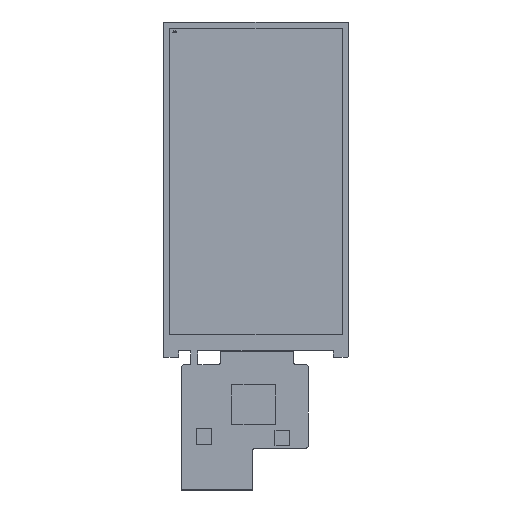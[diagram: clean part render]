
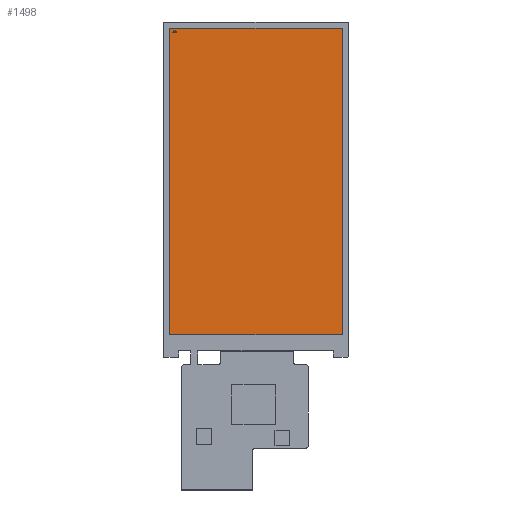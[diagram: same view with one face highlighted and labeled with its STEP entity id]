
A CAD part, top view. The second image highlights one B-rep face of the part: STEP entity #1498.
In plain terms, the highlighted planar face has unit normal (0, 0, 1).
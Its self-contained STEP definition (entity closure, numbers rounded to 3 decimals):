
#388=DIRECTION('',(1.,0.,0.));
#389=VECTOR('',#388,61.632);
#390=CARTESIAN_POINT('',(8.551,58.521,-0.1));
#391=LINE('',#390,#389);
#392=DIRECTION('',(0.,-1.,0.));
#393=VECTOR('',#392,109.654);
#394=CARTESIAN_POINT('',(8.551,168.174,-0.1));
#395=LINE('',#394,#393);
#396=DIRECTION('',(-1.,0.,0.));
#397=VECTOR('',#396,61.632);
#398=CARTESIAN_POINT('',(70.183,168.174,-0.1));
#399=LINE('',#398,#397);
#400=DIRECTION('',(0.,1.,0.));
#401=VECTOR('',#400,109.654);
#402=CARTESIAN_POINT('',(70.183,58.521,-0.1));
#403=LINE('',#402,#401);
#404=DIRECTION('',(0.316,-0.949,0.));
#405=VECTOR('',#404,0.769);
#406=CARTESIAN_POINT('',(9.937,167.358,-0.1));
#407=LINE('',#406,#405);
#408=DIRECTION('',(1.,0.,0.));
#409=VECTOR('',#408,0.122);
#410=CARTESIAN_POINT('',(9.816,167.358,-0.1));
#411=LINE('',#410,#409);
#412=DIRECTION('',(0.316,0.949,0.));
#413=VECTOR('',#412,0.769);
#414=CARTESIAN_POINT('',(9.572,166.628,-0.1));
#415=LINE('',#414,#413);
#416=DIRECTION('',(-1.,0.,0.));
#417=VECTOR('',#416,0.091);
#418=CARTESIAN_POINT('',(9.663,166.628,-0.1));
#419=LINE('',#418,#417);
#420=DIRECTION('',(-0.31,-0.951,0.));
#421=VECTOR('',#420,0.196);
#422=CARTESIAN_POINT('',(9.724,166.815,-0.1));
#423=LINE('',#422,#421);
#424=DIRECTION('',(-1.,0.,0.));
#425=VECTOR('',#424,0.304);
#426=CARTESIAN_POINT('',(10.028,166.815,-0.1));
#427=LINE('',#426,#425);
#428=DIRECTION('',(-0.31,0.951,0.));
#429=VECTOR('',#428,0.196);
#430=CARTESIAN_POINT('',(10.089,166.628,-0.1));
#431=LINE('',#430,#429);
#432=DIRECTION('',(-1.,0.,0.));
#433=VECTOR('',#432,0.091);
#434=CARTESIAN_POINT('',(10.181,166.628,-0.1));
#435=LINE('',#434,#433);
#448=DIRECTION('',(0.316,-0.949,0.));
#449=VECTOR('',#448,0.769);
#450=CARTESIAN_POINT('',(10.667,167.358,-0.1));
#451=LINE('',#450,#449);
#452=DIRECTION('',(1.,0.,0.));
#453=VECTOR('',#452,0.122);
#454=CARTESIAN_POINT('',(10.546,167.358,-0.1));
#455=LINE('',#454,#453);
#456=DIRECTION('',(0.316,0.949,0.));
#457=VECTOR('',#456,0.769);
#458=CARTESIAN_POINT('',(10.302,166.628,-0.1));
#459=LINE('',#458,#457);
#460=DIRECTION('',(-1.,0.,0.));
#461=VECTOR('',#460,0.091);
#462=CARTESIAN_POINT('',(10.393,166.628,-0.1));
#463=LINE('',#462,#461);
#464=DIRECTION('',(-0.31,-0.951,0.));
#465=VECTOR('',#464,0.196);
#466=CARTESIAN_POINT('',(10.454,166.815,-0.1));
#467=LINE('',#466,#465);
#468=DIRECTION('',(-1.,0.,0.));
#469=VECTOR('',#468,0.304);
#470=CARTESIAN_POINT('',(10.758,166.815,-0.1));
#471=LINE('',#470,#469);
#472=DIRECTION('',(-0.31,0.951,0.));
#473=VECTOR('',#472,0.196);
#474=CARTESIAN_POINT('',(10.819,166.628,-0.1));
#475=LINE('',#474,#473);
#476=DIRECTION('',(-1.,0.,0.));
#477=VECTOR('',#476,0.091);
#478=CARTESIAN_POINT('',(10.911,166.628,-0.1));
#479=LINE('',#478,#477);
#934=CARTESIAN_POINT('',(8.551,58.521,-0.1));
#935=CARTESIAN_POINT('',(70.183,58.521,-0.1));
#936=VERTEX_POINT('',#934);
#937=VERTEX_POINT('',#935);
#938=CARTESIAN_POINT('',(70.183,168.174,-0.1));
#939=VERTEX_POINT('',#938);
#940=CARTESIAN_POINT('',(8.551,168.174,-0.1));
#941=VERTEX_POINT('',#940);
#942=CARTESIAN_POINT('',(9.937,167.358,-0.1));
#943=CARTESIAN_POINT('',(10.181,166.628,-0.1));
#944=VERTEX_POINT('',#942);
#945=VERTEX_POINT('',#943);
#946=CARTESIAN_POINT('',(10.089,166.628,-0.1));
#947=VERTEX_POINT('',#946);
#948=CARTESIAN_POINT('',(10.028,166.815,-0.1));
#949=VERTEX_POINT('',#948);
#950=CARTESIAN_POINT('',(9.724,166.815,-0.1));
#951=VERTEX_POINT('',#950);
#952=CARTESIAN_POINT('',(9.663,166.628,-0.1));
#953=VERTEX_POINT('',#952);
#954=CARTESIAN_POINT('',(9.572,166.628,-0.1));
#955=VERTEX_POINT('',#954);
#956=CARTESIAN_POINT('',(9.816,167.358,-0.1));
#957=VERTEX_POINT('',#956);
#964=CARTESIAN_POINT('',(10.667,167.358,-0.1));
#965=CARTESIAN_POINT('',(10.911,166.628,-0.1));
#966=VERTEX_POINT('',#964);
#967=VERTEX_POINT('',#965);
#968=CARTESIAN_POINT('',(10.819,166.628,-0.1));
#969=VERTEX_POINT('',#968);
#970=CARTESIAN_POINT('',(10.758,166.815,-0.1));
#971=VERTEX_POINT('',#970);
#972=CARTESIAN_POINT('',(10.454,166.815,-0.1));
#973=VERTEX_POINT('',#972);
#974=CARTESIAN_POINT('',(10.393,166.628,-0.1));
#975=VERTEX_POINT('',#974);
#976=CARTESIAN_POINT('',(10.302,166.628,-0.1));
#977=VERTEX_POINT('',#976);
#978=CARTESIAN_POINT('',(10.546,167.358,-0.1));
#979=VERTEX_POINT('',#978);
#1451=CARTESIAN_POINT('',(0.,0.,-0.1));
#1452=DIRECTION('',(0.,0.,1.));
#1453=DIRECTION('',(1.,0.,0.));
#1454=AXIS2_PLACEMENT_3D('',#1451,#1452,#1453);
#1455=PLANE('',#1454);
#1456=ORIENTED_EDGE('',*,*,#1403,.F.);
#1457=ORIENTED_EDGE('',*,*,#1418,.F.);
#1458=ORIENTED_EDGE('',*,*,#1432,.F.);
#1459=ORIENTED_EDGE('',*,*,#1445,.F.);
#1460=EDGE_LOOP('',(#1456,#1457,#1458,#1459));
#1461=FACE_OUTER_BOUND('',#1460,.F.);
#1463=ORIENTED_EDGE('',*,*,#1462,.F.);
#1465=ORIENTED_EDGE('',*,*,#1464,.F.);
#1467=ORIENTED_EDGE('',*,*,#1466,.F.);
#1469=ORIENTED_EDGE('',*,*,#1468,.F.);
#1471=ORIENTED_EDGE('',*,*,#1470,.F.);
#1473=ORIENTED_EDGE('',*,*,#1472,.F.);
#1475=ORIENTED_EDGE('',*,*,#1474,.F.);
#1477=ORIENTED_EDGE('',*,*,#1476,.F.);
#1478=EDGE_LOOP('',(#1463,#1465,#1467,#1469,#1471,#1473,#1475,#1477));
#1479=FACE_BOUND('',#1478,.F.);
#1481=ORIENTED_EDGE('',*,*,#1480,.F.);
#1483=ORIENTED_EDGE('',*,*,#1482,.F.);
#1485=ORIENTED_EDGE('',*,*,#1484,.F.);
#1487=ORIENTED_EDGE('',*,*,#1486,.F.);
#1489=ORIENTED_EDGE('',*,*,#1488,.F.);
#1491=ORIENTED_EDGE('',*,*,#1490,.F.);
#1493=ORIENTED_EDGE('',*,*,#1492,.F.);
#1495=ORIENTED_EDGE('',*,*,#1494,.F.);
#1496=EDGE_LOOP('',(#1481,#1483,#1485,#1487,#1489,#1491,#1493,#1495));
#1497=FACE_BOUND('',#1496,.F.);
#1403=EDGE_CURVE('',#936,#937,#391,.T.);
#1418=EDGE_CURVE('',#941,#936,#395,.T.);
#1432=EDGE_CURVE('',#939,#941,#399,.T.);
#1445=EDGE_CURVE('',#937,#939,#403,.T.);
#1462=EDGE_CURVE('',#944,#945,#407,.T.);
#1464=EDGE_CURVE('',#957,#944,#411,.T.);
#1466=EDGE_CURVE('',#955,#957,#415,.T.);
#1468=EDGE_CURVE('',#953,#955,#419,.T.);
#1470=EDGE_CURVE('',#951,#953,#423,.T.);
#1472=EDGE_CURVE('',#949,#951,#427,.T.);
#1474=EDGE_CURVE('',#947,#949,#431,.T.);
#1476=EDGE_CURVE('',#945,#947,#435,.T.);
#1480=EDGE_CURVE('',#966,#967,#451,.T.);
#1482=EDGE_CURVE('',#979,#966,#455,.T.);
#1484=EDGE_CURVE('',#977,#979,#459,.T.);
#1486=EDGE_CURVE('',#975,#977,#463,.T.);
#1488=EDGE_CURVE('',#973,#975,#467,.T.);
#1490=EDGE_CURVE('',#971,#973,#471,.T.);
#1492=EDGE_CURVE('',#969,#971,#475,.T.);
#1494=EDGE_CURVE('',#967,#969,#479,.T.);
#1498=ADVANCED_FACE('',(#1461,#1479,#1497),#1455,.T.);
